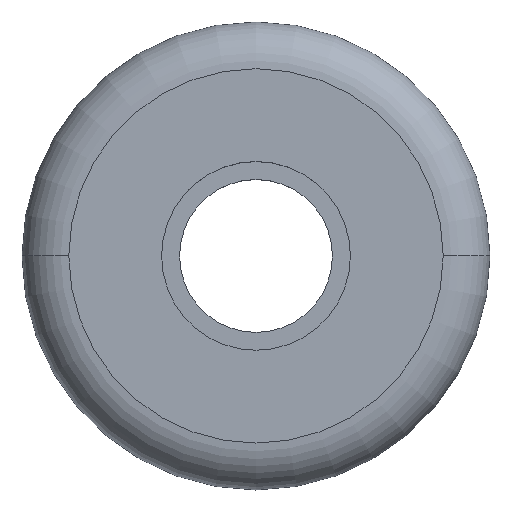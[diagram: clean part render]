
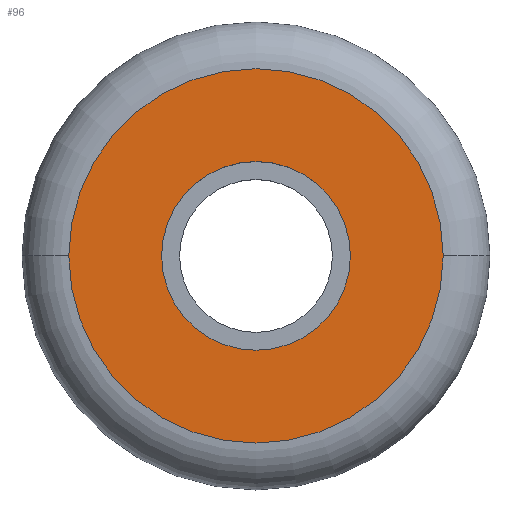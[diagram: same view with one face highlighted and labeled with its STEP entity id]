
A CAD part, top view. The second image highlights one B-rep face of the part: STEP entity #96.
In plain terms, the highlighted planar face has unit normal (0, 0, 1).
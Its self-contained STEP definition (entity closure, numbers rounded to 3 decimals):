
#11 = VERTEX_POINT ( 'NONE', #297 ) ;
#21 = EDGE_LOOP ( 'NONE', ( #228, #505 ) ) ;
#33 = CARTESIAN_POINT ( 'NONE',  ( 0., 0., 7.6 ) ) ;
#40 = AXIS2_PLACEMENT_3D ( 'NONE', #192, #428, #234 ) ;
#59 = EDGE_CURVE ( 'NONE', #93, #416, #217, .T. ) ;
#81 = EDGE_CURVE ( 'NONE', #300, #11, #345, .T. ) ;
#83 = EDGE_LOOP ( 'NONE', ( #437, #467 ) ) ;
#87 = CARTESIAN_POINT ( 'NONE',  ( -12., 0., 7.6 ) ) ;
#93 = VERTEX_POINT ( 'NONE', #269 ) ;
#96 = ADVANCED_FACE ( 'NONE', ( #197, #511 ), #157, .T. ) ;
#106 = AXIS2_PLACEMENT_3D ( 'NONE', #33, #152, #424 ) ;
#146 = CARTESIAN_POINT ( 'NONE',  ( 0., 0., 7.6 ) ) ;
#152 = DIRECTION ( 'NONE',  ( 0., 0., 1. ) ) ;
#157 = PLANE ( 'NONE',  #500 ) ;
#165 = DIRECTION ( 'NONE',  ( 0., 0., 1. ) ) ;
#187 = EDGE_CURVE ( 'NONE', #416, #93, #196, .T. ) ;
#192 = CARTESIAN_POINT ( 'NONE',  ( 0., 0., 7.6 ) ) ;
#196 = CIRCLE ( 'NONE', #40, 6.05 ) ;
#197 = FACE_OUTER_BOUND ( 'NONE', #83, .T. ) ;
#204 = AXIS2_PLACEMENT_3D ( 'NONE', #146, #459, #296 ) ;
#217 = CIRCLE ( 'NONE', #106, 6.05 ) ;
#228 = ORIENTED_EDGE ( 'NONE', *, *, #187, .F. ) ;
#234 = DIRECTION ( 'NONE',  ( 1., 0., 0. ) ) ;
#238 = EDGE_CURVE ( 'NONE', #11, #300, #470, .T. ) ;
#269 = CARTESIAN_POINT ( 'NONE',  ( -6.05, 0., 7.6 ) ) ;
#271 = CARTESIAN_POINT ( 'NONE',  ( 0., 0., 7.6 ) ) ;
#296 = DIRECTION ( 'NONE',  ( 1., 0., 0. ) ) ;
#297 = CARTESIAN_POINT ( 'NONE',  ( 12., 0., 7.6 ) ) ;
#300 = VERTEX_POINT ( 'NONE', #87 ) ;
#305 = CARTESIAN_POINT ( 'NONE',  ( 0., 0., 7.6 ) ) ;
#345 = CIRCLE ( 'NONE', #204, 12. ) ;
#387 = DIRECTION ( 'NONE',  ( 1., 0., 0. ) ) ;
#394 = AXIS2_PLACEMENT_3D ( 'NONE', #271, #165, #474 ) ;
#416 = VERTEX_POINT ( 'NONE', #435 ) ;
#424 = DIRECTION ( 'NONE',  ( 1., 0., 0. ) ) ;
#428 = DIRECTION ( 'NONE',  ( 0., 0., 1. ) ) ;
#435 = CARTESIAN_POINT ( 'NONE',  ( 6.05, 0., 7.6 ) ) ;
#436 = DIRECTION ( 'NONE',  ( 0., 0., 1. ) ) ;
#437 = ORIENTED_EDGE ( 'NONE', *, *, #238, .T. ) ;
#459 = DIRECTION ( 'NONE',  ( 0., 0., 1. ) ) ;
#467 = ORIENTED_EDGE ( 'NONE', *, *, #81, .T. ) ;
#470 = CIRCLE ( 'NONE', #394, 12. ) ;
#474 = DIRECTION ( 'NONE',  ( 1., 0., 0. ) ) ;
#500 = AXIS2_PLACEMENT_3D ( 'NONE', #305, #436, #387 ) ;
#505 = ORIENTED_EDGE ( 'NONE', *, *, #59, .F. ) ;
#511 = FACE_BOUND ( 'NONE', #21, .T. ) ;
